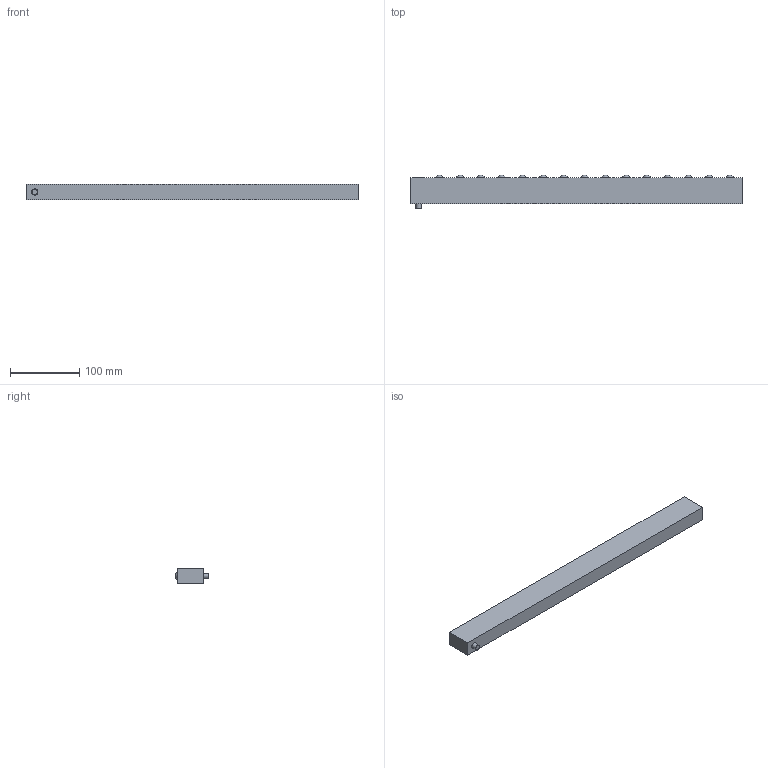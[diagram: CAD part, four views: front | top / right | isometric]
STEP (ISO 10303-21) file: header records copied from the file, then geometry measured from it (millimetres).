
FILE_DESCRIPTION(/* description */ (''),/* implementation_level */ '2;1');
FILE_NAME(/* name */ 'V:\Shrinkwrap\EMB\EMB - SHRINKWRAP\EMB22\EMB22-15_Shrinkwrap_1.stp',/* time_stamp */ '2022-08-12T10:49:28+02:00',/* author */ ('cw'),/* organization */ (''),/* preprocessor_version */ 'ST-DEVELOPER v17',/* originating_system */ 'Autodesk Inventor 2019',/* authorisation */ '');
FILE_SCHEMA (('AUTOMOTIVE_DESIGN { 1 0 10303 214 3 1 1 }'));
Length unit declared in the file: millimetre
Products named in the file (1): EMB22-15_Shrinkwrap_1
Bounding box: 480 x 48.46 x 21.8 mm (x, y, z)
Volume: 395736.9 mm3; surface area: 61732.6 mm2
Topology: 1 solids, 1 shells, 29 faces, 43 edges, 37 vertices
Faces by surface type: sphere 15, plane 10, cylinder 4
Full cylindrical faces by diameter (mm): 8 x1, 9 x1, 13 x1, 14 x1
Entity records: 763 total; most frequent: DIRECTION 126, CARTESIAN_POINT 108, ORIENTED_EDGE 82, AXIS2_PLACEMENT_3D 55, EDGE_LOOP 48, EDGE_CURVE 41, VERTEX_POINT 33, STYLED_ITEM 32
